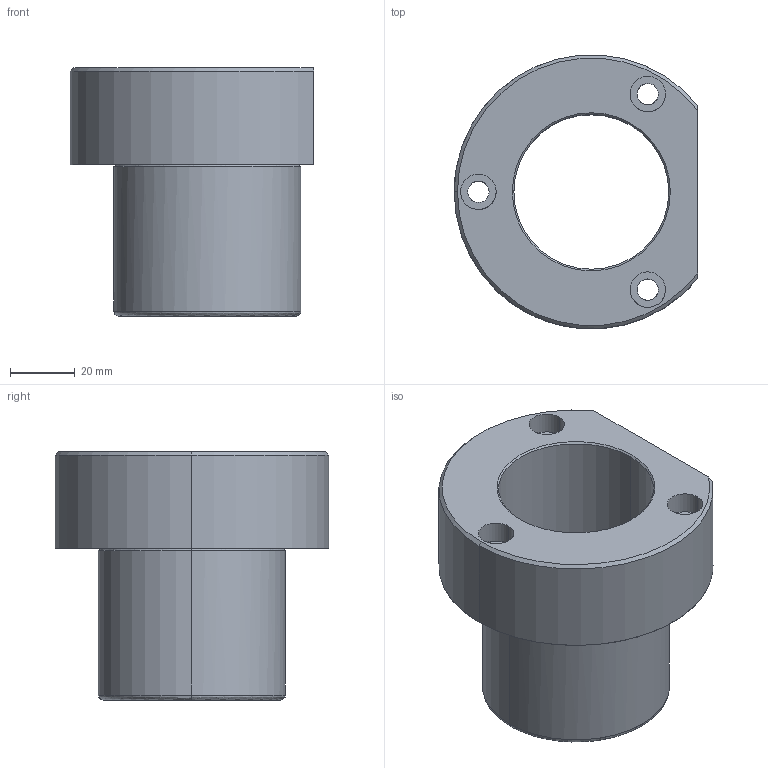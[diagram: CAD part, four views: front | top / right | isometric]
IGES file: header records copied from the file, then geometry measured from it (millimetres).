
Start section: START RECORD GO HERE.
Global section: file name: 737-40.igs; native system: DASSAULT SYSTEMES CATIA V5 R20 - www.3ds.com; preprocessor: CATIA Version 5 Release 20 ; author: Utente; organization: NB04-ASUS; date: 20210117.180146; units: millimetre
Bounding box: 75.5 x 84.86 x 77 mm (x, y, z)
Surface area: 36986.9 mm2 (no closed solid volume)
Topology: 0 solids, 0 shells, 37 faces, 164 edges, 164 vertices
Faces by surface type: revolution 30, plane 7
